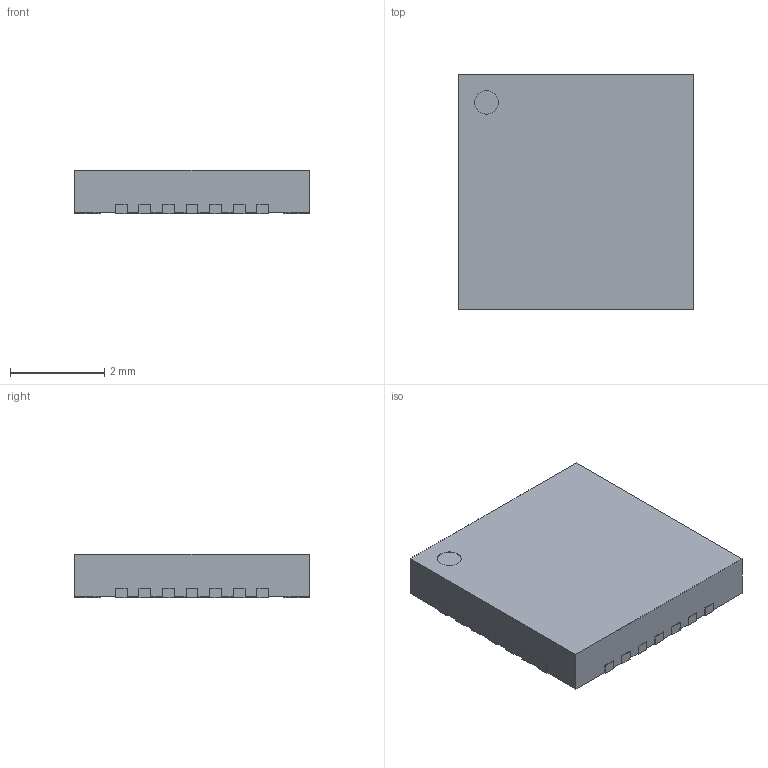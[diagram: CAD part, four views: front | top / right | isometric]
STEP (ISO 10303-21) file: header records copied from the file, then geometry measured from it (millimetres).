
/*
Copyright (C) 2017, kicad StepUp
This program is free software: you can redistribute it and/or modify
it under the terms of the GNU General Public License as published by
the Free Software Foundation, either version 3 of the License, or
any later version.
This program is distributed in the hope that it will be useful,
but WITHOUT ANY WARRANTY; without even the implied warranty of
MERCHANTABILITY or FITNESS FOR A PARTICULAR PURPOSE. See the
GNU General Public License for more details.
You should have received a copy of the GNU General Public License
along with this program. If not, see http://www.gnu.org/licenses/.
As a special exception, if you create a design which uses this symbol,
and embed this symbol or unaltered portions of this symbol into the design,
this symbol does not by itself cause the resulting design to be covered by
the GNU General Public License.
This exception does not however invalidate any other reasons why the design
itself might be covered by the GNU General Public License.
If you modify this symbol, you may extend this exception to your version of the symbol,
but you are not obligated to do so.
If you do not wish to do so, delete this exception statement from your version
Risk disclaimer
*/
FILE_DESCRIPTION(('Open CASCADE Model'),'2;1');
FILE_NAME('Open CASCADE Shape Model','2026-11-21T10:07:46',('Author'),( 'Open CASCADE'),'Open CASCADE STEP processor 8.0','Open CASCADE 8.0' ,'Unknown');
FILE_SCHEMA(('AUTOMOTIVE_DESIGN { 1 0 10303 214 1 1 1 1 }'));
Length unit declared in the file: millimetre
Products named in the file (1): Open CASCADE STEP translator 8.0 1
Bounding box: 5 x 5 x 0.92 mm (x, y, z)
Volume: 22.6 mm3; surface area: 69 mm2
Topology: 1 solids, 1 shells, 406 faces, 1094 edges, 692 vertices
Faces by surface type: plane 349, cylinder 57
Full cylindrical faces by diameter (mm): 0.5 x1
Entity records: 26707 total; most frequent: CARTESIAN_POINT 5619, DIRECTION 3705, LINE 2578, VECTOR 2578, ORIENTED_EDGE 2188, PCURVE 2188, DEFINITIONAL_REPRESENTATION 2188, EDGE_CURVE 1094
